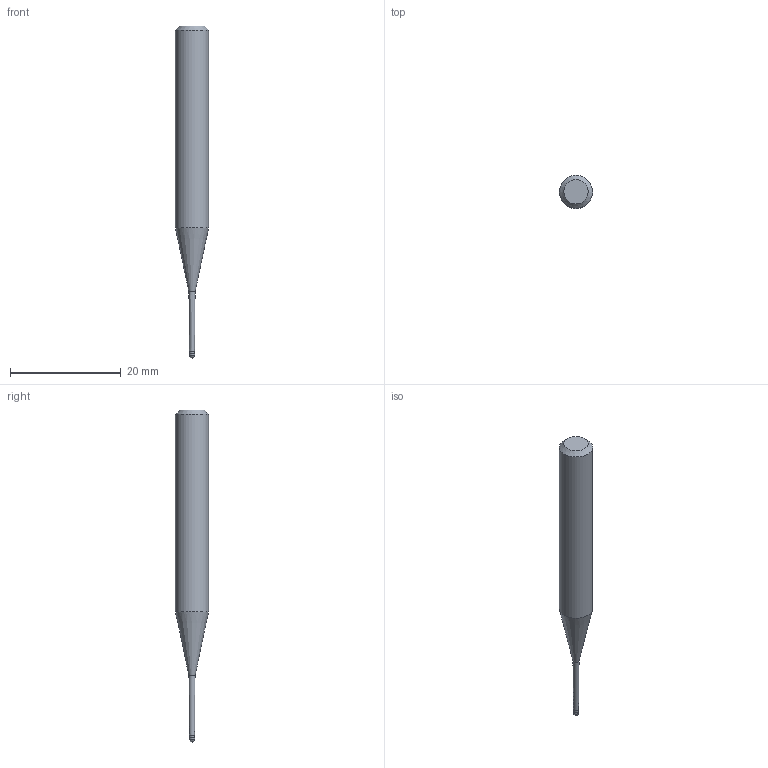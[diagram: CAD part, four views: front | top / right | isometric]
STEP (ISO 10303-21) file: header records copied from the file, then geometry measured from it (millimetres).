
FILE_DESCRIPTION((''),'2;1');
FILE_NAME('C:\Users\nsx150\AppData\Local\Temp\Mastercam 2021\E0ENTZRV18\TEMP.step','2021-09-02T09:55:53',(''),(''),'STEP Write','Mastercam 2021 ... CNC Software, Inc.','');
FILE_SCHEMA(('AUTOMOTIVE_DESIGN'));
Length unit declared in the file: millimetre
Products named in the file (1): None
Bounding box: 6 x 6 x 60 mm (x, y, z)
Volume: 1168 mm3; surface area: 877.1 mm2
Topology: 2 solids, 2 shells, 10 faces, 16 edges, 9 vertices
Faces by surface type: plane 3, cylinder 3, cone 3, sphere 1
Full cylindrical faces by diameter (mm): 0.905 x1, 1 x1, 6 x1
Entity records: 232 total; most frequent: DIRECTION 40, CARTESIAN_POINT 28, AXIS2_PLACEMENT_3D 20, ORIENTED_EDGE 16, EDGE_LOOP 16, STYLED_ITEM 13, ADVANCED_FACE 10, FACE_BOUND 9
